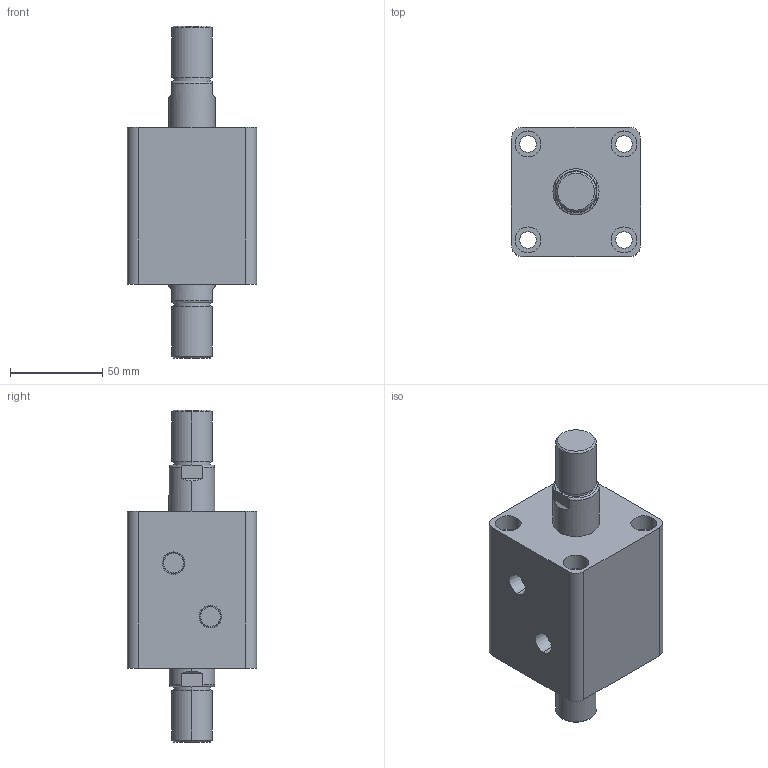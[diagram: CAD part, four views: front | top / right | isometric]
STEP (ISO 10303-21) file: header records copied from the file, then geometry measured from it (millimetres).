
FILE_DESCRIPTION (( 'STEP AP203' ), '1' );
FILE_NAME ('HTB-SW40-15W.STEP', '2019-10-07T09:05:39', ( '微软用户' ), ( '微软中国' ), 'SwSTEP 2.0', 'SolidWorks 2012', '' );
FILE_SCHEMA (( 'CONFIG_CONTROL_DESIGN' ));
Length unit declared in the file: millimetre
Products named in the file (3): HTB-SW40-15W; HTB-SW40-15W活塞杆; HTB-SW40-15掛极
Assembly tree (2 placements, depth 2):
  HTB-SW40-15W
    HTB-SW40-15掛极
    HTB-SW40-15W活塞杆
Bounding box: 70 x 70 x 180 mm (x, y, z)
Volume: 411483.8 mm3; surface area: 69144.4 mm2
Topology: 2 solids, 2 shells, 108 faces, 240 edges, 156 vertices
Faces by surface type: cylinder 52, plane 36, torus 12, cone 8
Entity records: 3449 total; most frequent: CARTESIAN_POINT 629, DIRECTION 586, ORIENTED_EDGE 480, AXIS2_PLACEMENT_3D 249, EDGE_CURVE 240, VERTEX_POINT 156, EDGE_LOOP 138, CIRCLE 136
